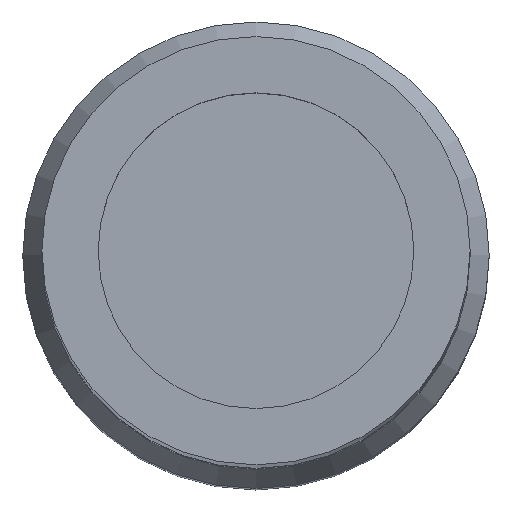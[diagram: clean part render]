
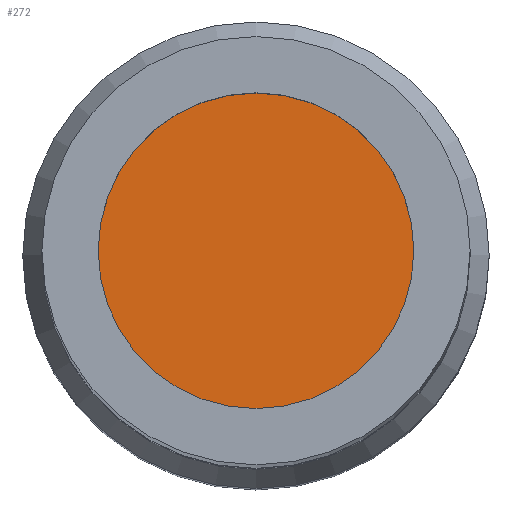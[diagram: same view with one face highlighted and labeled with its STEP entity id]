
A CAD part, top view. The second image highlights one B-rep face of the part: STEP entity #272.
In plain terms, the highlighted planar face has unit normal (0, 0, 1).
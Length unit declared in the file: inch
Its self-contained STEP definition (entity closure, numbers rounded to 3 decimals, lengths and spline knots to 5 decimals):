
#32 = ORIENTED_EDGE ( 'NONE', *, *, #294, .T. ) ;
#53 = EDGE_LOOP ( 'NONE', ( #32 ) ) ;
#90 = FACE_OUTER_BOUND ( 'NONE', #53, .T. ) ;
#115 = CIRCLE ( 'NONE', #320, 0.0505 ) ;
#163 = VERTEX_POINT ( 'NONE', #164 ) ;
#164 = CARTESIAN_POINT ( 'NONE',  ( -0.0505, 0., -0.03937 ) ) ;
#206 = CARTESIAN_POINT ( 'NONE',  ( 0., 0., -0.03937 ) ) ;
#213 = DIRECTION ( 'NONE',  ( 0., 0., 1. ) ) ;
#214 = DIRECTION ( 'NONE',  ( -1., 0., 0. ) ) ;
#230 = CARTESIAN_POINT ( 'NONE',  ( 0., 0., -0.03937 ) ) ;
#233 = PLANE ( 'NONE',  #312 ) ;
#240 = DIRECTION ( 'NONE',  ( 0., 0., -1. ) ) ;
#241 = DIRECTION ( 'NONE',  ( -1., 0., 0. ) ) ;
#272 = ADVANCED_FACE ( 'NONE', ( #90 ), #233, .F. ) ;
#294 = EDGE_CURVE ( 'NONE', #163, #163, #115, .T. ) ;
#312 = AXIS2_PLACEMENT_3D ( 'NONE', #230, #240, #241 ) ;
#320 = AXIS2_PLACEMENT_3D ( 'NONE', #206, #213, #214 ) ;
